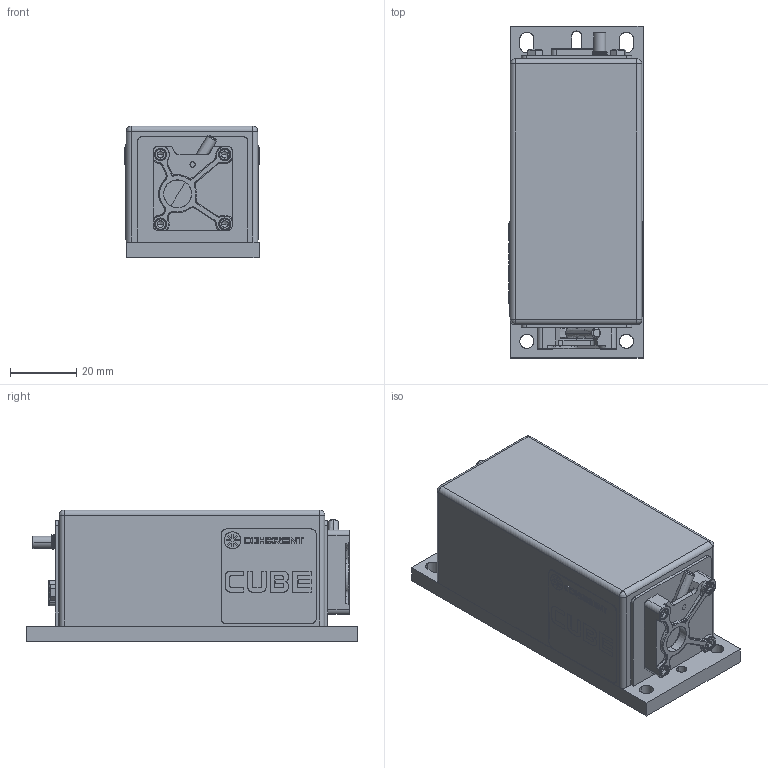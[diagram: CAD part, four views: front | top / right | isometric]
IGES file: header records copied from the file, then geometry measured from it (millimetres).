
Start section: SolidWorks IGES file using analytic representation for surfaces
Global section: file name: N:\POR\Public\PLMProductInfo\CUBE\BASIC CUBE ASSEMBLY.IGS; native system: SolidWorks 2010; preprocessor: SolidWorks 2010; author: lewisd; date: 100901.080634; units: inch
Bounding box: 40.44 x 100 x 39.7 mm (x, y, z)
Surface area: 45706 mm2 (no closed solid volume)
Topology: 0 solids, 0 shells, 1748 faces, 17457 edges, 17409 vertices
Faces by surface type: bspline 1084, revolution 664
